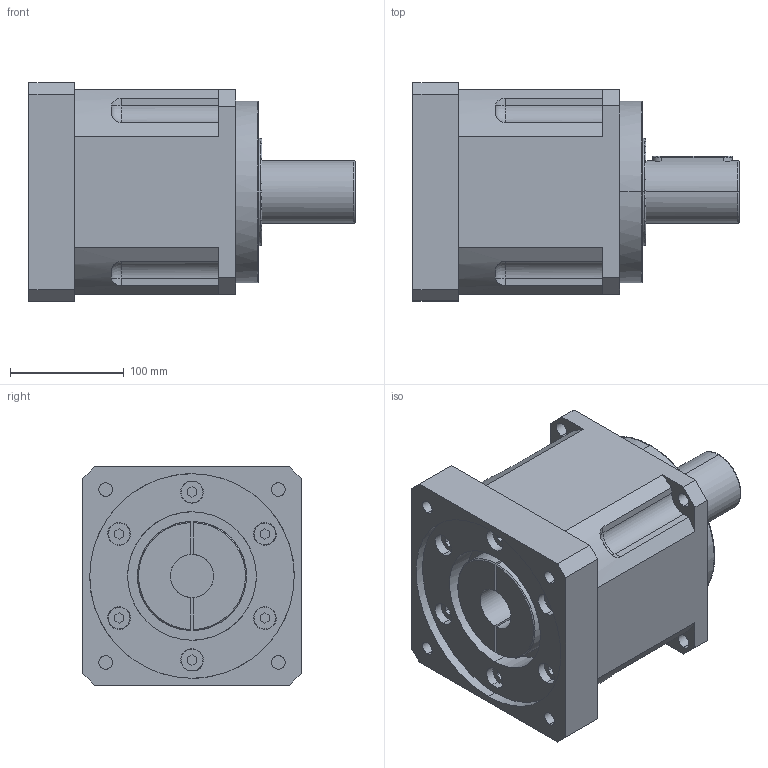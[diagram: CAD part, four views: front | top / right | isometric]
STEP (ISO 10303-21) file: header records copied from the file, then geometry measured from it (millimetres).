
FILE_DESCRIPTION (( 'STEP AP214' ), '1' );
FILE_NAME ('PAB180-5-S2-P1 38-180-215-M12.STEP', '2019-08-21T08:13:12', ( '微软用户' ), ( '微软中国' ), 'SwSTEP 2.0', 'SolidWorks 2014', '' );
FILE_SCHEMA (( 'AUTOMOTIVE_DESIGN' ));
Length unit declared in the file: millimetre
Products named in the file (2): PAB180-5-S2-P1  38-180-215-M12
Bounding box: 287 x 192 x 192 mm (x, y, z)
Volume: 5863958.2 mm3; surface area: 274259.5 mm2
Topology: 1 solids, 5 shells, 842 faces, 2407 edges, 1614 vertices
Faces by surface type: plane 676, cylinder 80, bspline 68, cone 14, torus 4
Entity records: 42903 total; most frequent: CARTESIAN_POINT 14974, ORIENTED_EDGE 4794, DIRECTION 3597, EDGE_CURVE 2397, VECTOR 1965, LINE 1965, VERTEX_POINT 1614, EDGE_LOOP 899
